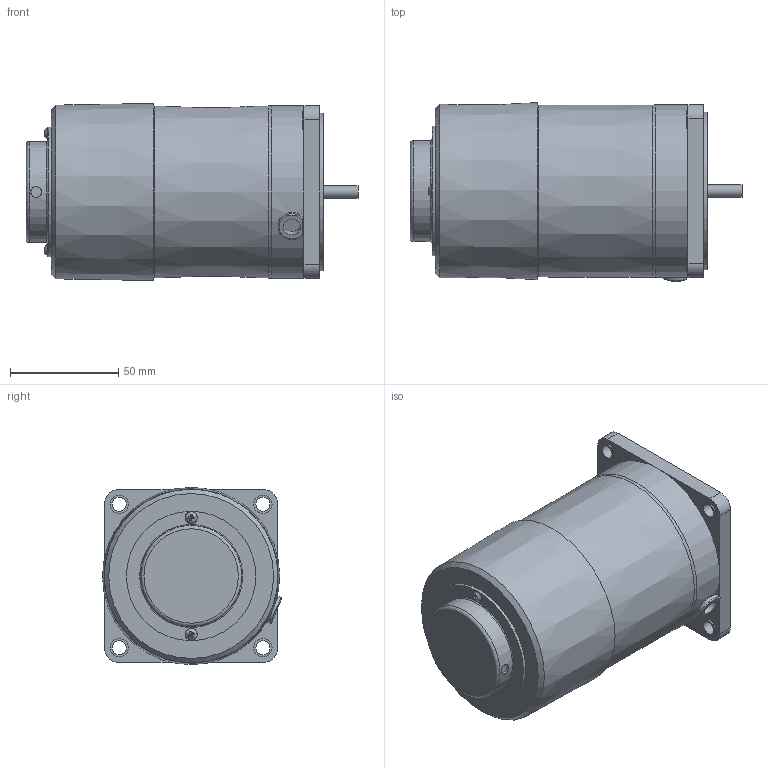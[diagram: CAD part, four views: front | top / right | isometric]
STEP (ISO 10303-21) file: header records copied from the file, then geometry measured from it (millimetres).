
FILE_DESCRIPTION(/* description */ (''),/* implementation_level */ '2;1');
FILE_NAME(/* name */ 'Y:\제품연구개발\3. 도면\3. 고객배포용\3D_홈페이지용\01-1 Standard AC SG Series\05-3 SPEED CONTROL ELECTROMAGNETIC BRAKE MOTOR(ES)\SG8R25_-ES12\SG8R25G_-ES.stp',/* time_stamp */ '2023-12-04T10:10:36+09:00',/* author */ ('shyi1037'),/* organization */ (''),/* preprocessor_version */ 'ST-DEVELOPER v18.1',/* originating_system */ 'Autodesk Inventor 2022',/* authorisation */ '');
FILE_SCHEMA (('AUTOMOTIVE_DESIGN { 1 0 10303 214 3 1 1 }'));
Length unit declared in the file: millimetre
Products named in the file (1): SG8R25G_-ES
Bounding box: 153.7 x 82.79 x 82 mm (x, y, z)
Volume: 693404.4 mm3; surface area: 77561.5 mm2
Topology: 7 solids, 7 shells, 153 faces, 360 edges, 237 vertices
Faces by surface type: plane 93, cylinder 41, torus 9, cone 8, bspline 2
Full cylindrical faces by diameter (mm): 3 x2, 3.5 x2, 5 x1, 5.6 x2, 5.72 x1, 6.5 x4, 8 x1, 8.5 x4, 10 x1, 34 x1, 44.7 x1, 46.7 x1, 47.7 x1, 59.9 x1, 73 x1, 78 x1, 80 x1
Entity records: 4875 total; most frequent: CARTESIAN_POINT 1087, DIRECTION 748, ORIENTED_EDGE 720, EDGE_CURVE 360, AXIS2_PLACEMENT_3D 276, VERTEX_POINT 237, LINE 196, VECTOR 196
